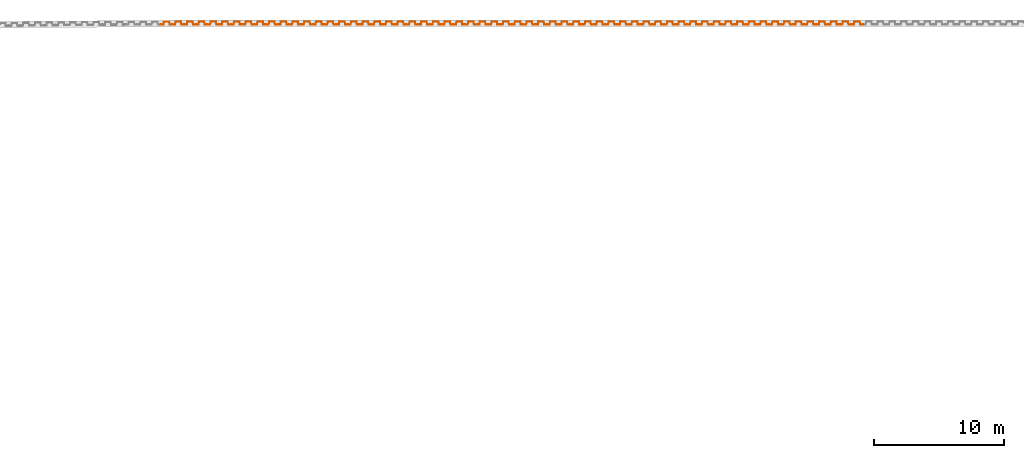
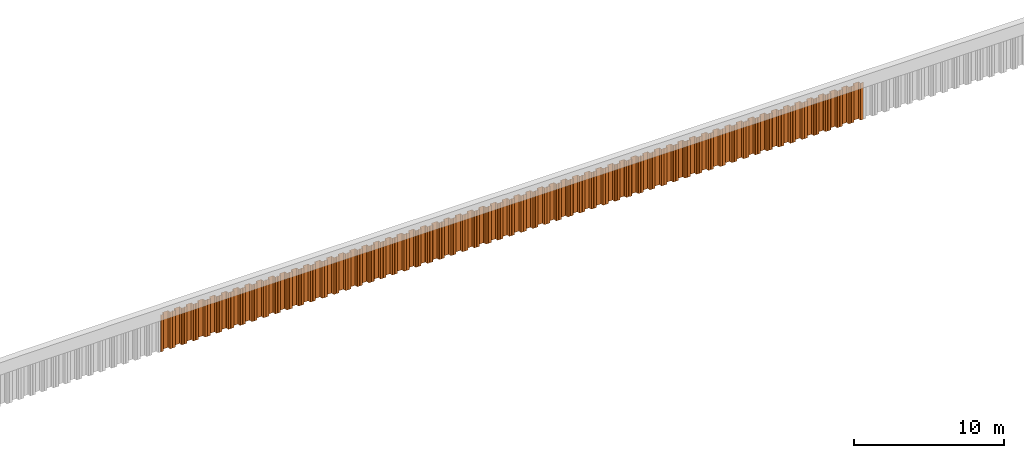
# One storey, part 9 of 15: 60 proxies.
"""IFC2X3 building model written with IfcOpenShell, lengths in millimetres."""

from ifc_helpers import new_model, entity, si_unit, converted_unit, derived_unit, direction, frame, frame_2d, origin, place, context, subcontext, project, spatial, polyline, circle_curve, parameter, trimmed, segment, composite_curve, outline, extrude, source, transform, mapped, material, type_object, type_shapes, element, save


model = new_model("IFC2X3")

# Units and contexts
model_context = context("Model", 3, precision=0.01, world=origin(), true_north=direction((6.12303176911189e-17, 1.0)))
body_context = subcontext(model_context, "Body", "Model", "MODEL_VIEW")
ifc_project = project(units=[si_unit("LENGTHUNIT", "METRE", prefix="MILLI"), si_unit("AREAUNIT", "SQUARE_METRE"), si_unit("VOLUMEUNIT", "CUBIC_METRE"), converted_unit("PLANEANGLEUNIT", "DEGREE", entity("IfcRatioMeasure", 0.0174532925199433), si_unit("PLANEANGLEUNIT", "RADIAN"), dimensions=[0, 0, 0, 0, 0, 0, 0]), si_unit("MASSUNIT", "GRAM", prefix="KILO"), derived_unit("MASSDENSITYUNIT", [(si_unit("MASSUNIT", "GRAM", prefix="KILO"), 1), (si_unit("LENGTHUNIT", "METRE"), -3)]), derived_unit("MOMENTOFINERTIAUNIT", [(si_unit("LENGTHUNIT", "METRE"), 4)]), si_unit("TIMEUNIT", "SECOND"), si_unit("FREQUENCYUNIT", "HERTZ"), si_unit("THERMODYNAMICTEMPERATUREUNIT", "DEGREE_CELSIUS"), derived_unit("THERMALTRANSMITTANCEUNIT", [(si_unit("MASSUNIT", "GRAM", prefix="KILO"), 1), (si_unit("THERMODYNAMICTEMPERATUREUNIT", "KELVIN"), -1), (si_unit("TIMEUNIT", "SECOND"), -3)]), derived_unit("VOLUMETRICFLOWRATEUNIT", [(si_unit("LENGTHUNIT", "METRE"), 3), (si_unit("TIMEUNIT", "SECOND"), -1)]), si_unit("ELECTRICCURRENTUNIT", "AMPERE"), si_unit("ELECTRICVOLTAGEUNIT", "VOLT"), si_unit("POWERUNIT", "WATT"), si_unit("FORCEUNIT", "NEWTON", prefix="KILO"), si_unit("ILLUMINANCEUNIT", "LUX"), si_unit("LUMINOUSFLUXUNIT", "LUMEN"), si_unit("LUMINOUSINTENSITYUNIT", "CANDELA"), derived_unit("USERDEFINED", [(si_unit("MASSUNIT", "GRAM", prefix="KILO"), -1), (si_unit("LENGTHUNIT", "METRE"), -2), (si_unit("TIMEUNIT", "SECOND"), 3), (si_unit("LUMINOUSFLUXUNIT", "LUMEN"), 1)]), derived_unit("LINEARVELOCITYUNIT", [(si_unit("LENGTHUNIT", "METRE"), 1), (si_unit("TIMEUNIT", "SECOND"), -1)]), si_unit("PRESSUREUNIT", "PASCAL"), derived_unit("USERDEFINED", [(si_unit("LENGTHUNIT", "METRE"), -2), (si_unit("MASSUNIT", "GRAM", prefix="KILO"), 1), (si_unit("TIMEUNIT", "SECOND"), -2)]), derived_unit("LINEARFORCEUNIT", [(si_unit("MASSUNIT", "GRAM", prefix="KILO"), 1), (si_unit("LENGTHUNIT", "METRE"), 1), (si_unit("TIMEUNIT", "SECOND"), -2), (si_unit("LENGTHUNIT", "METRE"), -1)]), derived_unit("PLANARFORCEUNIT", [(si_unit("MASSUNIT", "GRAM", prefix="KILO"), 1), (si_unit("LENGTHUNIT", "METRE"), 1), (si_unit("TIMEUNIT", "SECOND"), -2), (si_unit("LENGTHUNIT", "METRE"), -2)])], contexts=[model_context])

# Site, building, storey
site_placement = place(None, origin())
site = spatial("IfcSite", under=ifc_project, at=site_placement, Name="Default", CompositionType="ELEMENT")
building_placement = place(site_placement, origin())
building = spatial("IfcBuilding", under=site, at=building_placement, CompositionType="ELEMENT")
storey_placement = place(building_placement, frame((0.0, 0.0, 9500.0)))
storey = spatial("IfcBuildingStorey", under=building, at=storey_placement, Name="AP+9.500", CompositionType="ELEMENT", Elevation=9500.0)

# Proxies
ifc_material = material(Name="<Unnamed>")
building_element_proxy_type = type_object("IfcBuildingElementProxyType", Name="鋼矢板10H型:鋼矢板10H型", PredefinedType="NOTDEFINED", material=ifc_material)
shared_shape = source(origin(), body_context, "Body", "SweptSolid", [
    extrude(outline(composite_curve([segment(trimmed(circle_curve(frame_2d((85.3662976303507, 306.644432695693), x_axis=(0.422618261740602, 0.906307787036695)), 13.885714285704), [parameter(24.9999999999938)], [parameter(90.0000000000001)], True, "PARAMETER"), True, "CONTINUOUS"), segment(polyline([(72.7815666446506, 312.512789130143), (9.8129512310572, 177.476157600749)]), True, "CONTINUOUS"), segment(trimmed(circle_curve(frame_2d((29.3891994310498, 168.347603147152), x_axis=(0.422618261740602, 0.906307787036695)), 21.6), [parameter(90.0000000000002)], [parameter(168.69006752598)], True, "PARAMETER"), True, "CONTINUOUS"), segment(polyline([(16.598697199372, 150.941769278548), (175.329723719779, 34.2998683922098)]), True, "CONTINUOUS"), segment(trimmed(circle_curve(frame_2d((168.93447260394, 25.596951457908), x_axis=(0.422618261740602, 0.906307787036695)), 10.7999999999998), [parameter(270.0)], [parameter(348.690067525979)], True, "PARAMETER"), False, "CONTINUOUS"), segment(polyline([(178.722596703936, 21.0326742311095), (18.2974003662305, -323.000269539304)]), True, "CONTINUOUS"), segment(trimmed(circle_curve(frame_2d((8.50927626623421, -318.435992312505), x_axis=(0.422618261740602, 0.906307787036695)), 10.8), [parameter(191.30993247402)], [parameter(269.999999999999)], True, "PARAMETER"), False, "CONTINUOUS"), segment(polyline([(5.95324328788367, -328.929166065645), (-185.429973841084, -282.310113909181)]), True, "CONTINUOUS"), segment(trimmed(circle_curve(frame_2d((-190.542039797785, -303.296461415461), x_axis=(0.422618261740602, 0.906307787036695)), 21.6000000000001), [parameter(11.3099324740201)], [parameter(90.0000000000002)], True, "PARAMETER"), True, "CONTINUOUS"), segment(polyline([(-210.118287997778, -294.167906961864), (-290.330886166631, -466.184378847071)]), True, "CONTINUOUS"), segment(trimmed(circle_curve(frame_2d((-270.754637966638, -475.312933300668), x_axis=(0.422618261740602, 0.906307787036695)), 21.6), [parameter(90.0000000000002)], [parameter(269.999999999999)], True, "PARAMETER"), True, "CONTINUOUS"), segment(polyline([(-251.178389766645, -484.441487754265), (-249.065298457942, -479.909948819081)]), True, "CONTINUOUS"), segment(polyline([(-249.065298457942, -479.909948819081), (-258.853422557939, -475.345671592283)]), True, "CONTINUOUS"), segment(polyline([(-258.853422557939, -475.345671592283), (-260.966513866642, -479.877210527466)]), True, "CONTINUOUS"), segment(trimmed(circle_curve(frame_2d((-270.754637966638, -475.312933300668), x_axis=(0.422618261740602, 0.906307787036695)), 10.8), [parameter(90.0000000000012)], [parameter(270.0)], True, "PARAMETER"), False, "CONTINUOUS"), segment(polyline([(-280.542762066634, -470.748656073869), (-200.330163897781, -298.732184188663)]), True, "CONTINUOUS"), segment(trimmed(circle_curve(frame_2d((-190.542039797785, -303.296461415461), x_axis=(0.422618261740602, 0.906307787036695)), 10.8), [parameter(11.3099324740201)], [parameter(89.9999999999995)], True, "PARAMETER"), False, "CONTINUOUS"), segment(polyline([(-187.986006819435, -292.803287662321), (3.39721030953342, -339.422339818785)]), True, "CONTINUOUS"), segment(trimmed(circle_curve(frame_2d((8.50927626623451, -318.435992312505), x_axis=(0.422618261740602, 0.906307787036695)), 21.6), [parameter(191.30993247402)], [parameter(270.0)], True, "PARAMETER"), True, "CONTINUOUS"), segment(polyline([(28.0855244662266, -327.564546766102), (188.510720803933, 16.4683970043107)]), True, "CONTINUOUS"), segment(trimmed(circle_curve(frame_2d((168.93447260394, 25.5969514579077), x_axis=(0.422618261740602, 0.906307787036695)), 21.6), [parameter(270.0)], [parameter(348.69006752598)], True, "PARAMETER"), True, "CONTINUOUS"), segment(polyline([(181.724974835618, 43.0027853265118), (22.9939483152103, 159.644686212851)]), True, "CONTINUOUS"), segment(trimmed(circle_curve(frame_2d((29.3891994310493, 168.347603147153), x_axis=(0.422618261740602, 0.906307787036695)), 10.7999999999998), [parameter(89.9999999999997)], [parameter(168.690067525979)], True, "PARAMETER"), False, "CONTINUOUS"), segment(polyline([(19.6010753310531, 172.911880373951), (82.5696907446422, 307.948511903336)]), True, "CONTINUOUS"), segment(trimmed(circle_curve(frame_2d((85.3662976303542, 306.64443269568), x_axis=(0.422618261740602, 0.906307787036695)), 3.08571428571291), [parameter(25.0000000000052)], [parameter(90.0000000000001)], True, "PARAMETER"), False, "CONTINUOUS"), segment(polyline([(85.3662976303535, 309.730146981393), (122.220231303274, 309.730146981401)]), True, "CONTINUOUS"), segment(trimmed(circle_curve(frame_2d((122.220231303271, 323.615861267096), x_axis=(0.422618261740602, 0.906307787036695)), 13.8857142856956), [parameter(205.000000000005)], [parameter(270.0)], True, "PARAMETER"), True, "CONTINUOUS"), segment(polyline([(134.804962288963, 317.747504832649), (141.079261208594, 331.202782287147)]), True, "CONTINUOUS"), segment(trimmed(circle_curve(frame_2d((121.503013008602, 340.331336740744), x_axis=(0.422618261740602, 0.906307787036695)), 21.6), [parameter(270.0)], [parameter(90.0000000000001)], True, "PARAMETER"), True, "CONTINUOUS"), segment(polyline([(101.926764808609, 349.459891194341), (99.8136734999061, 344.928352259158)]), True, "CONTINUOUS"), segment(polyline([(99.8136734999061, 344.928352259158), (109.601797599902, 340.364075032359)]), True, "CONTINUOUS"), segment(polyline([(109.601797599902, 340.364075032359), (111.714888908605, 344.895613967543)]), True, "CONTINUOUS"), segment(trimmed(circle_curve(frame_2d((121.503013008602, 340.331336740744), x_axis=(0.422618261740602, 0.906307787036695)), 10.8), [parameter(270.0)], [parameter(89.9999999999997)], True, "PARAMETER"), False, "CONTINUOUS"), segment(polyline([(131.291137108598, 335.767059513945), (125.01683818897, 322.311782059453)]), True, "CONTINUOUS"), segment(trimmed(circle_curve(frame_2d((122.220231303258, 323.615861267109), x_axis=(0.422618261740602, 0.906307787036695)), 3.08571428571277), [parameter(204.999999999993)], [parameter(270.0)], True, "PARAMETER"), False, "CONTINUOUS"), segment(polyline([(122.220231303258, 320.530146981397), (85.3662976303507, 320.530146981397)]), True, "CONTINUOUS")], self_intersect=False)), frame((95.205667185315, -48.8888888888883, -3000.0), z_axis=(0.0, 0.0, -1.0), x_axis=(0.4226182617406, 0.906307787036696, 0.0)), (0.0, 0.0, -1.0), 3000.0),
])
type_shapes(building_element_proxy_type, [shared_shape])
for number, where in (
    (1, (34332.0, 49750.0, -650.0)),
    (2, (33432.0, 49750.0, -650.0)),
    (3, (32532.0, 49750.0, -650.0)),
    (4, (31632.0, 49750.0, -650.0)),
    (5, (30732.0, 49750.0, -650.0)),
    (6, (29832.0, 49750.0, -650.0)),
    (7, (28932.0, 49750.0, -650.0)),
    (8, (28032.0, 49750.0, -650.0)),
    (9, (27132.0, 49750.0, -650.0)),
    (10, (26232.0, 49750.0, -650.0)),
    (11, (25332.0, 49750.0, -650.0)),
    (12, (24432.0, 49750.0, -650.0)),
    (13, (23532.0, 49750.0, -650.0)),
    (14, (22632.0, 49750.0, -650.0)),
    (15, (21732.0, 49750.0, -650.0)),
    (16, (20832.0, 49750.0, -650.0)),
    (17, (19932.0, 49750.0, -650.0)),
    (18, (19032.0, 49750.0, -650.0)),
    (19, (18132.0, 49750.0, -650.0)),
    (20, (17232.0, 49750.0, -650.0)),
    (21, (16332.0, 49750.0, -650.0)),
    (22, (15432.0, 49750.0, -650.0)),
    (23, (14532.0, 49750.0, -650.0)),
    (24, (13632.0, 49750.0, -650.0)),
    (25, (12732.0, 49750.0, -650.0)),
    (26, (11832.0, 49750.0, -650.0)),
    (27, (10932.0, 49750.0, -650.0)),
    (28, (10032.0, 49750.0, -650.0)),
    (29, (9132.0, 49750.0, -650.0)),
    (30, (8232.0, 49750.0, -650.0)),
    (31, (7332.0, 49750.0, -650.0)),
    (32, (6432.0, 49750.0, -650.0)),
    (33, (5532.0, 49750.0, -650.0)),
    (34, (4632.0, 49750.0, -650.0)),
    (35, (3732.0, 49750.0, -650.0)),
    (36, (2832.0, 49750.0, -650.0)),
    (37, (1932.0, 49750.0, -650.0)),
    (38, (1032.0, 49750.0, -650.0)),
    (39, (132.0, 49750.0, -650.0)),
    (40, (-768.0, 49750.0, -650.0)),
    (41, (-1668.0, 49750.0, -650.0)),
    (42, (-2568.0, 49750.0, -650.0)),
    (43, (-3468.0, 49750.0, -650.0)),
    (44, (-4368.0, 49750.0, -650.0)),
    (45, (-5268.0, 49750.0, -650.0)),
    (46, (-6168.0, 49750.0, -650.0)),
    (47, (-7068.0, 49750.0, -650.0)),
    (48, (-7968.0, 49750.0, -650.0)),
    (49, (-8868.0, 49750.0, -650.0)),
    (50, (-9768.0, 49750.0, -650.0)),
    (51, (-10668.0, 49750.0, -650.0)),
    (52, (-11568.0, 49750.0, -650.0)),
    (53, (-12468.0, 49750.0, -650.0)),
    (54, (-13368.0, 49750.0, -650.0)),
    (55, (-14268.0, 49750.0, -650.0)),
    (56, (-15168.0, 49750.0, -650.0)),
    (57, (-16068.0047517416, 49750.0214337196, -650.0)),
):
    element("IfcBuildingElementProxy", number, at=place(storey_placement, frame(where)), inside=storey, type_object=building_element_proxy_type, material=ifc_material, Name="鋼矢板10H型:鋼矢板10H型", ObjectType="鋼矢板10H型:鋼矢板10H型", context=body_context, shape_type="MappedRepresentation", body=[
        mapped(shared_shape, transform((0.0, 0.0, 0.0), scale=1.0)),
    ])
for number, where, z_axis, x_axis in (
    (58, (-18762.9812663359, 49745.1774643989, -650.0), (0.0, 0.0, 1.0), (0.999995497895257, 0.00300069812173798, 0.0)),
    (59, (-17862.9871553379, 49747.4922817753, -650.0), (0.0, 0.0, 1.0), (0.999997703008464, 0.00214335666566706, 0.0)),
):
    element("IfcBuildingElementProxy", number, at=place(storey_placement, frame(where, z_axis=z_axis, x_axis=x_axis)), inside=storey, type_object=building_element_proxy_type, material=ifc_material, Name="鋼矢板10H型:鋼矢板10H型", ObjectType="鋼矢板10H型:鋼矢板10H型", context=body_context, shape_type="MappedRepresentation", body=[
        mapped(shared_shape, transform((0.0, 0.0, 0.0), scale=1.0)),
    ])
proxy_placement = place(storey_placement, frame((-16962.9968124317, 49749.6784959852, -650.0)))
element("IfcBuildingElementProxy", 60, at=proxy_placement, inside=storey, type_object=building_element_proxy_type, material=ifc_material, Name="鋼矢板10H型:鋼矢板10H型", ObjectType="鋼矢板10H型:鋼矢板10H型", context=body_context, shape_type="MappedRepresentation", body=[
    mapped(shared_shape, transform((0.0, 0.0, 0.0), scale=1.0)),
])

save(model, "model.ifc")
